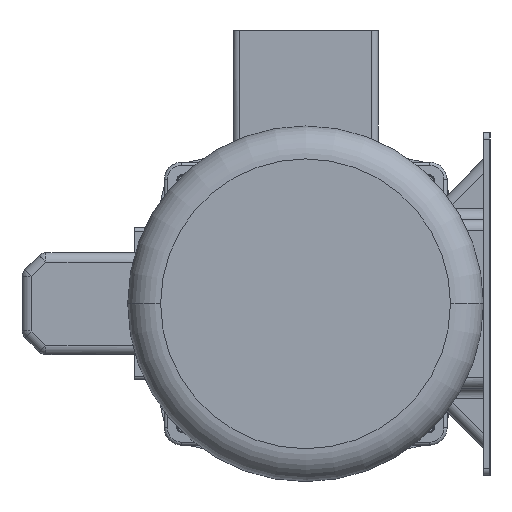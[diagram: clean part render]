
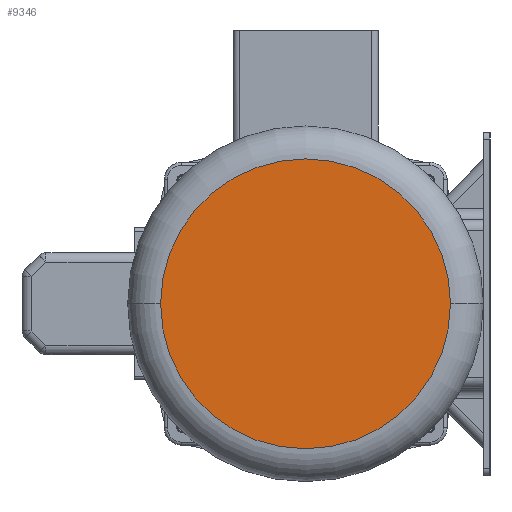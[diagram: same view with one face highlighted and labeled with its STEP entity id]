
A CAD part, left-side view. The second image highlights one B-rep face of the part: STEP entity #9346.
In plain terms, the highlighted planar face has unit normal (-1, 0, 0).
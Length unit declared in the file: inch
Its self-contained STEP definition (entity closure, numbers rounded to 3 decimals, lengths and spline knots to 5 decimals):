
#6544=CARTESIAN_POINT('',(-10.315,0.00189,-0.00189));
#6545=DIRECTION('',(1.,0.,0.));
#6546=DIRECTION('',(0.,-1.,0.));
#6547=AXIS2_PLACEMENT_3D('',#6544,#6545,#6546);
#6549=CARTESIAN_POINT('',(-10.315,0.00189,-0.00189));
#6550=DIRECTION('',(1.,0.,0.));
#6551=DIRECTION('',(0.,1.,0.));
#6552=AXIS2_PLACEMENT_3D('',#6549,#6550,#6551);
#8623=CARTESIAN_POINT('',(-10.315,2.75189,-0.00189));
#8624=VERTEX_POINT('',#8623);
#8625=CARTESIAN_POINT('',(-10.315,-2.74811,-0.00189));
#8626=VERTEX_POINT('',#8625);
#9337=CARTESIAN_POINT('',(-10.315,0.00189,-0.00189));
#9338=DIRECTION('',(1.,0.,0.));
#9339=DIRECTION('',(0.,-1.,0.));
#9340=AXIS2_PLACEMENT_3D('',#9337,#9338,#9339);
#9341=PLANE('',#9340);
#9342=ORIENTED_EDGE('',*,*,#9316,.T.);
#9343=ORIENTED_EDGE('',*,*,#9332,.T.);
#9344=EDGE_LOOP('',(#9342,#9343));
#9345=FACE_OUTER_BOUND('',#9344,.F.);
#9346=ADVANCED_FACE('',(#9345),#9341,.F.);
#6548=CIRCLE('',#6547,2.75);
#6553=CIRCLE('',#6552,2.75);
#9316=EDGE_CURVE('',#8626,#8624,#6548,.T.);
#9332=EDGE_CURVE('',#8624,#8626,#6553,.T.);
